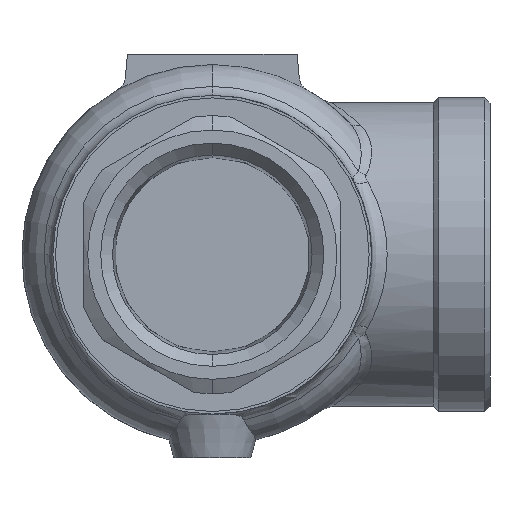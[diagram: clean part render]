
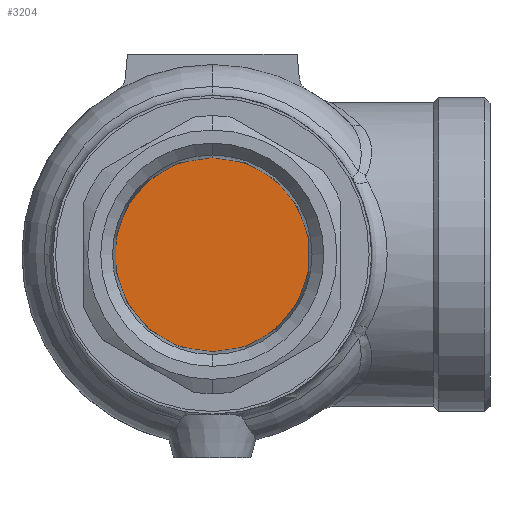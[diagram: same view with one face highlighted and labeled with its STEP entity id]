
A CAD part, front view. The second image highlights one B-rep face of the part: STEP entity #3204.
In plain terms, the highlighted planar face has unit normal (0, -1, 0).
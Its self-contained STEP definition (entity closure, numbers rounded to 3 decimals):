
#155 = CARTESIAN_POINT ( 'NONE',  ( -18.9, -43., 0. ) ) ;
#424 = AXIS2_PLACEMENT_3D ( 'NONE', #155, #2418, #471 ) ;
#471 = DIRECTION ( 'NONE',  ( 0., 0., 1. ) ) ;
#814 = EDGE_CURVE ( 'NONE', #1816, #2376, #2720, .T. ) ;
#868 = FACE_OUTER_BOUND ( 'NONE', #2730, .T. ) ;
#975 = ORIENTED_EDGE ( 'NONE', *, *, #1227, .F. ) ;
#1227 = EDGE_CURVE ( 'NONE', #2376, #1816, #2790, .T. ) ;
#1455 = ORIENTED_EDGE ( 'NONE', *, *, #814, .F. ) ;
#1563 = CARTESIAN_POINT ( 'NONE',  ( 0., -43., 0. ) ) ;
#1816 = VERTEX_POINT ( 'NONE', #3855 ) ;
#2064 = AXIS2_PLACEMENT_3D ( 'NONE', #1563, #2760, #2445 ) ;
#2092 = PLANE ( 'NONE',  #424 ) ;
#2376 = VERTEX_POINT ( 'NONE', #3449 ) ;
#2418 = DIRECTION ( 'NONE',  ( 0., 1., 0. ) ) ;
#2445 = DIRECTION ( 'NONE',  ( 0., 0., 1. ) ) ;
#2474 = DIRECTION ( 'NONE',  ( 0., 0., 1. ) ) ;
#2720 = CIRCLE ( 'NONE', #3242, 18.9 ) ;
#2730 = EDGE_LOOP ( 'NONE', ( #975, #1455 ) ) ;
#2760 = DIRECTION ( 'NONE',  ( 0., 1., 0. ) ) ;
#2790 = CIRCLE ( 'NONE', #2064, 18.9 ) ;
#3204 = ADVANCED_FACE ( 'NONE', ( #868 ), #2092, .F. ) ;
#3242 = AXIS2_PLACEMENT_3D ( 'NONE', #3428, #3997, #2474 ) ;
#3428 = CARTESIAN_POINT ( 'NONE',  ( 0., -43., 0. ) ) ;
#3449 = CARTESIAN_POINT ( 'NONE',  ( 0., -43., -18.9 ) ) ;
#3855 = CARTESIAN_POINT ( 'NONE',  ( 0., -43., 18.9 ) ) ;
#3997 = DIRECTION ( 'NONE',  ( 0., 1., 0. ) ) ;
